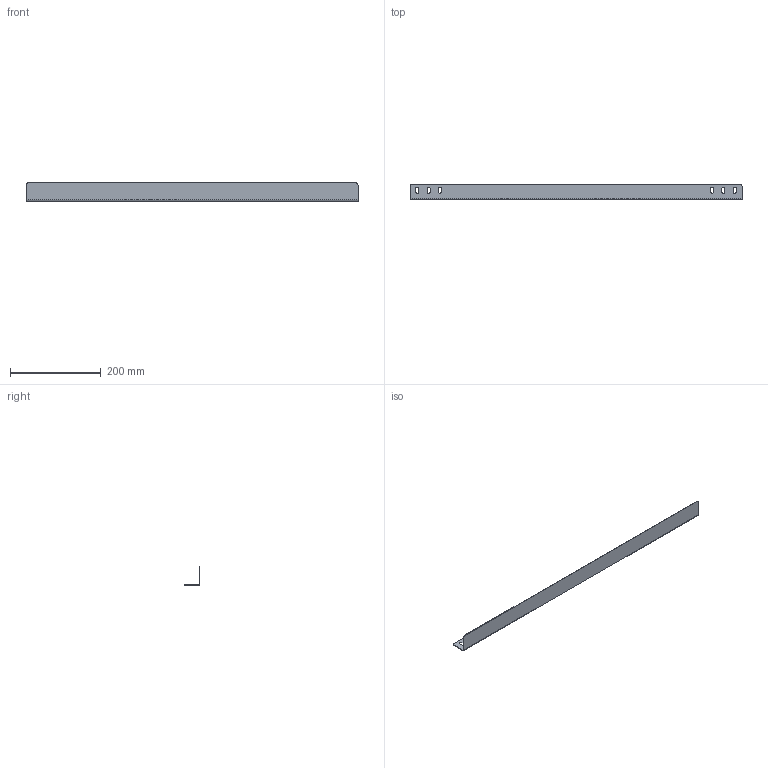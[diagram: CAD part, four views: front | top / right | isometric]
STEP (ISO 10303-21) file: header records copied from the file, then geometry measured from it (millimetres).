
FILE_DESCRIPTION (( 'STEP AP203' ), '1' );
FILE_NAME ('AEP0153.STEP', '2018-07-04T06:18:02', ( '' ), ( '' ), 'SwSTEP 2.0', 'SolidWorks 2017', '' );
FILE_SCHEMA (( 'CONFIG_CONTROL_DESIGN' ));
Length unit declared in the file: millimetre
Products named in the file (1): AEP0153
Bounding box: 732 x 35 x 40 mm (x, y, z)
Volume: 79058.7 mm3; surface area: 108136.9 mm2
Topology: 1 solids, 1 shells, 42 faces, 112 edges, 72 vertices
Faces by surface type: plane 24, cylinder 18
Entity records: 1409 total; most frequent: DIRECTION 234, CARTESIAN_POINT 227, ORIENTED_EDGE 224, EDGE_CURVE 112, AXIS2_PLACEMENT_3D 79, VECTOR 76, LINE 76, VERTEX_POINT 72
